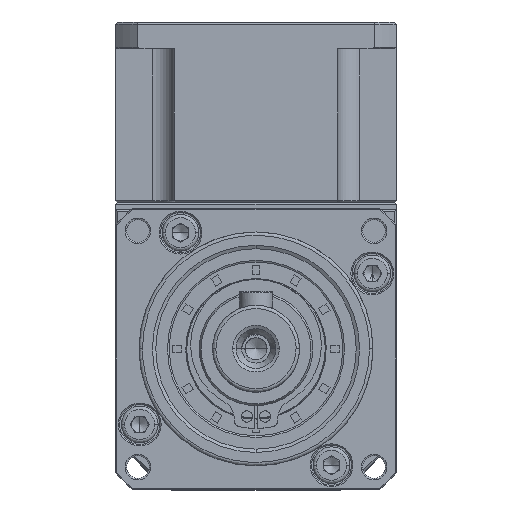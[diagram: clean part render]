
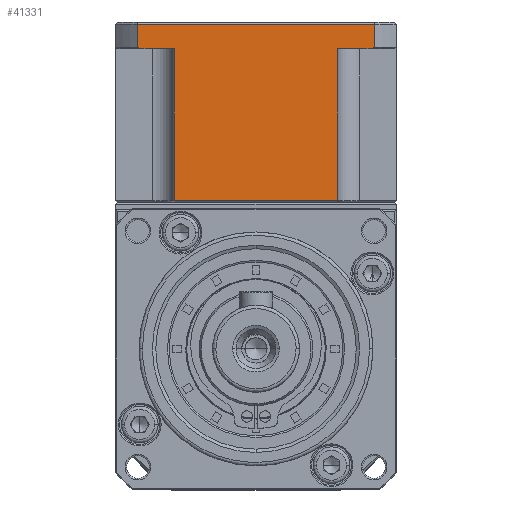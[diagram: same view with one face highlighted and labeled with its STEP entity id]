
A CAD part, top view. The second image highlights one B-rep face of the part: STEP entity #41331.
In plain terms, the highlighted planar face has unit normal (0, 0, 1).
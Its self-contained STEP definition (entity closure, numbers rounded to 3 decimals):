
#265 = VECTOR ( 'NONE', #127388, 1000. ) ;
#5122 = LINE ( 'NONE', #88334, #111269 ) ;
#6248 = DIRECTION ( 'NONE',  ( 1., 0., 0. ) ) ;
#8568 = CARTESIAN_POINT ( 'NONE',  ( -40.041, 48.47, 24.002 ) ) ;
#12614 = ORIENTED_EDGE ( 'NONE', *, *, #39818, .F. ) ;
#15461 = ORIENTED_EDGE ( 'NONE', *, *, #62747, .T. ) ;
#15765 = EDGE_LOOP ( 'NONE', ( #12614, #26822, #74004, #60039, #53695, #125259, #101567, #131119, #15461, #52188 ) ) ;
#16778 = LINE ( 'NONE', #129295, #122896 ) ;
#23032 = CARTESIAN_POINT ( 'NONE',  ( -4.53, 51.92, 24.002 ) ) ;
#24448 = CARTESIAN_POINT ( 'NONE',  ( -4.53, 48.47, 24.002 ) ) ;
#26460 = DIRECTION ( 'NONE',  ( 1., 0., 0. ) ) ;
#26822 = ORIENTED_EDGE ( 'NONE', *, *, #127810, .T. ) ;
#29950 = CARTESIAN_POINT ( 'NONE',  ( -4.92, 48.22, 24.002 ) ) ;
#31909 = CARTESIAN_POINT ( 'NONE',  ( -1.285, 25.22, 24.002 ) ) ;
#34337 = CARTESIAN_POINT ( 'NONE',  ( -40.041, 51.92, 24.002 ) ) ;
#37125 = DIRECTION ( 'NONE',  ( 1., 0., 0. ) ) ;
#38604 = LINE ( 'NONE', #54682, #93343 ) ;
#39613 = CARTESIAN_POINT ( 'NONE',  ( -39.781, 48.303, 24.002 ) ) ;
#39818 = EDGE_CURVE ( 'NONE', #84767, #106611, #38604, .T. ) ;
#41058 = EDGE_CURVE ( 'NONE', #70874, #74431, #5122, .T. ) ;
#41331 = ADVANCED_FACE ( 'NONE', ( #74188 ), #113749, .T. ) ;
#42290 = DIRECTION ( 'NONE',  ( -1., 0., 0. ) ) ;
#44014 = CARTESIAN_POINT ( 'NONE',  ( -34.535, 48.22, 24.002 ) ) ;
#44673 = AXIS2_PLACEMENT_3D ( 'NONE', #31909, #103879, #42290 ) ;
#47856 = EDGE_CURVE ( 'NONE', #82801, #70874, #16778, .T. ) ;
#50044 = CARTESIAN_POINT ( 'NONE',  ( -34.535, 25.52, 24.002 ) ) ;
#51777 = CARTESIAN_POINT ( 'NONE',  ( -40.041, 48.47, 24.002 ) ) ;
#52188 = ORIENTED_EDGE ( 'NONE', *, *, #129662, .F. ) ;
#53695 = ORIENTED_EDGE ( 'NONE', *, *, #115128, .T. ) ;
#54682 = CARTESIAN_POINT ( 'NONE',  ( -40.041, 5.055, 24.002 ) ) ;
#57702 = DIRECTION ( 'NONE',  ( 0., -1., 0. ) ) ;
#60039 = ORIENTED_EDGE ( 'NONE', *, *, #41058, .T. ) ;
#61781 = EDGE_CURVE ( 'NONE', #73037, #77308, #75202, .T. ) ;
#62747 = EDGE_CURVE ( 'NONE', #73037, #106233, #116747, .T. ) ;
#62775 = LINE ( 'NONE', #128866, #90125 ) ;
#64305 = DIRECTION ( 'NONE',  ( 0., 1., 0. ) ) ;
#64538 = VERTEX_POINT ( 'NONE', #65234 ) ;
#65234 = CARTESIAN_POINT ( 'NONE',  ( -10.035, 25.52, 24.002 ) ) ;
#65983 = CARTESIAN_POINT ( 'NONE',  ( -10.035, 25.22, 24.002 ) ) ;
#69709 = VERTEX_POINT ( 'NONE', #100543 ) ;
#70292 = CARTESIAN_POINT ( 'NONE',  ( -39.911, 48.386, 24.002 ) ) ;
#70874 = VERTEX_POINT ( 'NONE', #44014 ) ;
#73037 = VERTEX_POINT ( 'NONE', #24448 ) ;
#74004 = ORIENTED_EDGE ( 'NONE', *, *, #47856, .T. ) ;
#74188 = FACE_OUTER_BOUND ( 'NONE', #15765, .T. ) ;
#74431 = VERTEX_POINT ( 'NONE', #50044 ) ;
#75202 = B_SPLINE_CURVE_WITH_KNOTS ( 'NONE', 3,
 ( #91630, #101449, #111769, #29950 ),
 .UNSPECIFIED., .F., .F.,
 ( 4, 4 ),
 ( 0., 0. ),
 .UNSPECIFIED. ) ;
#75561 = VECTOR ( 'NONE', #37125, 1000. ) ;
#77308 = VERTEX_POINT ( 'NONE', #79471 ) ;
#78209 = CARTESIAN_POINT ( 'NONE',  ( -39.651, 48.22, 24.002 ) ) ;
#78218 = EDGE_CURVE ( 'NONE', #64538, #69709, #106443, .T. ) ;
#78482 = EDGE_CURVE ( 'NONE', #69709, #77308, #106316, .T. ) ;
#79471 = CARTESIAN_POINT ( 'NONE',  ( -4.92, 48.22, 24.002 ) ) ;
#82801 = VERTEX_POINT ( 'NONE', #78209 ) ;
#84520 = CARTESIAN_POINT ( 'NONE',  ( -4.53, 25.22, 24.002 ) ) ;
#84767 = VERTEX_POINT ( 'NONE', #51777 ) ;
#88334 = CARTESIAN_POINT ( 'NONE',  ( -34.535, 25.22, 24.002 ) ) ;
#89486 = VECTOR ( 'NONE', #64305, 1000. ) ;
#90125 = VECTOR ( 'NONE', #26460, 1000. ) ;
#91630 = CARTESIAN_POINT ( 'NONE',  ( -4.53, 48.47, 24.002 ) ) ;
#92864 = CARTESIAN_POINT ( 'NONE',  ( -1.285, 48.22, 24.002 ) ) ;
#93343 = VECTOR ( 'NONE', #126476, 1000. ) ;
#100543 = CARTESIAN_POINT ( 'NONE',  ( -10.035, 48.22, 24.002 ) ) ;
#101449 = CARTESIAN_POINT ( 'NONE',  ( -4.66, 48.386, 24.002 ) ) ;
#101567 = ORIENTED_EDGE ( 'NONE', *, *, #78482, .T. ) ;
#103879 = DIRECTION ( 'NONE',  ( 0., 0., 1. ) ) ;
#106047 = LINE ( 'NONE', #109057, #75561 ) ;
#106233 = VERTEX_POINT ( 'NONE', #23032 ) ;
#106316 = LINE ( 'NONE', #92864, #109569 ) ;
#106443 = LINE ( 'NONE', #65983, #265 ) ;
#106611 = VERTEX_POINT ( 'NONE', #34337 ) ;
#109057 = CARTESIAN_POINT ( 'NONE',  ( -1.285, 51.92, 24.002 ) ) ;
#109569 = VECTOR ( 'NONE', #113483, 1000. ) ;
#111269 = VECTOR ( 'NONE', #57702, 1000. ) ;
#111530 = CARTESIAN_POINT ( 'NONE',  ( -39.651, 48.22, 24.002 ) ) ;
#111769 = CARTESIAN_POINT ( 'NONE',  ( -4.79, 48.303, 24.002 ) ) ;
#112013 = B_SPLINE_CURVE_WITH_KNOTS ( 'NONE', 3,
 ( #8568, #70292, #39613, #111530 ),
 .UNSPECIFIED., .F., .F.,
 ( 4, 4 ),
 ( 0., 0. ),
 .UNSPECIFIED. ) ;
#113483 = DIRECTION ( 'NONE',  ( 1., 0., 0. ) ) ;
#113749 = PLANE ( 'NONE',  #44673 ) ;
#115128 = EDGE_CURVE ( 'NONE', #74431, #64538, #62775, .T. ) ;
#116747 = LINE ( 'NONE', #84520, #89486 ) ;
#122896 = VECTOR ( 'NONE', #6248, 1000. ) ;
#125259 = ORIENTED_EDGE ( 'NONE', *, *, #78218, .T. ) ;
#126476 = DIRECTION ( 'NONE',  ( 0., 1., 0. ) ) ;
#127388 = DIRECTION ( 'NONE',  ( 0., 1., 0. ) ) ;
#127810 = EDGE_CURVE ( 'NONE', #84767, #82801, #112013, .T. ) ;
#128866 = CARTESIAN_POINT ( 'NONE',  ( -1.285, 25.52, 24.002 ) ) ;
#129295 = CARTESIAN_POINT ( 'NONE',  ( -1.285, 48.22, 24.002 ) ) ;
#129662 = EDGE_CURVE ( 'NONE', #106611, #106233, #106047, .T. ) ;
#131119 = ORIENTED_EDGE ( 'NONE', *, *, #61781, .F. ) ;
